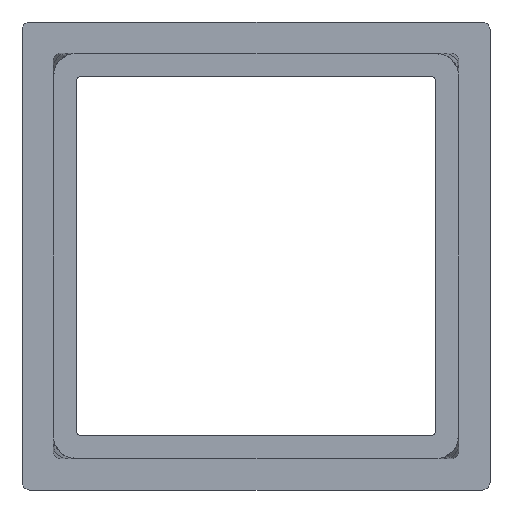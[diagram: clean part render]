
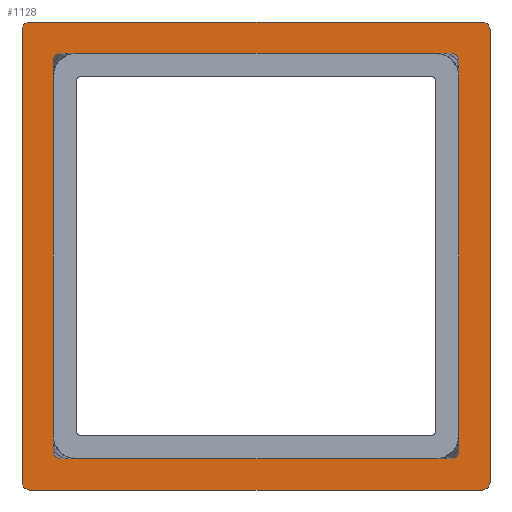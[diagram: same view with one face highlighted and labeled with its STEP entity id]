
A CAD part, left-side view. The second image highlights one B-rep face of the part: STEP entity #1128.
In plain terms, the highlighted planar face has unit normal (-1, 0, 0).
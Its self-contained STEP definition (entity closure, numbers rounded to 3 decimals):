
#3 = EDGE_CURVE ( 'NONE', #752, #306, #1134, .T. ) ;
#9 = LINE ( 'NONE', #1425, #1402 ) ;
#32 = CARTESIAN_POINT ( 'NONE',  ( 25., 13., -12.5 ) ) ;
#38 = AXIS2_PLACEMENT_3D ( 'NONE', #284, #43, #1282 ) ;
#43 = DIRECTION ( 'NONE',  ( -1., 0., 0. ) ) ;
#59 = DIRECTION ( 'NONE',  ( 0., -1., 0. ) ) ;
#66 = CARTESIAN_POINT ( 'NONE',  ( 25., 15., 14.5 ) ) ;
#72 = ORIENTED_EDGE ( 'NONE', *, *, #579, .T. ) ;
#84 = EDGE_LOOP ( 'NONE', ( #582, #710, #72, #1307, #916, #1151, #386, #313 ) ) ;
#96 = LINE ( 'NONE', #523, #279 ) ;
#113 = DIRECTION ( 'NONE',  ( 0., 0., -1. ) ) ;
#118 = CARTESIAN_POINT ( 'NONE',  ( 25., -13., -13. ) ) ;
#119 = VERTEX_POINT ( 'NONE', #1223 ) ;
#121 = DIRECTION ( 'NONE',  ( -1., 0., 0. ) ) ;
#129 = CARTESIAN_POINT ( 'NONE',  ( 25., 14.5, -14.5 ) ) ;
#142 = EDGE_CURVE ( 'NONE', #1044, #119, #563, .T. ) ;
#146 = CARTESIAN_POINT ( 'NONE',  ( 25., -13., 13. ) ) ;
#176 = CARTESIAN_POINT ( 'NONE',  ( 25., 14.5, 15. ) ) ;
#181 = LINE ( 'NONE', #1051, #1403 ) ;
#190 = CARTESIAN_POINT ( 'NONE',  ( 25., -15., 14.5 ) ) ;
#202 = CARTESIAN_POINT ( 'NONE',  ( 25., 14.5, 14.5 ) ) ;
#212 = EDGE_CURVE ( 'NONE', #400, #423, #96, .T. ) ;
#213 = ORIENTED_EDGE ( 'NONE', *, *, #3, .T. ) ;
#246 = DIRECTION ( 'NONE',  ( -1., 0., 0. ) ) ;
#248 =( BOUNDED_CURVE ( )  B_SPLINE_CURVE ( 2, ( #1140, #451, #32 ),
 .UNSPECIFIED., .F., .T. ) 
 B_SPLINE_CURVE_WITH_KNOTS ( ( 3, 3 ),
 ( 0., 0.001 ),
 .UNSPECIFIED. ) 
 CURVE ( )  GEOMETRIC_REPRESENTATION_ITEM ( )  RATIONAL_B_SPLINE_CURVE ( ( 1., 0.707, 1. ) ) 
 REPRESENTATION_ITEM ( '' )  );
#255 = EDGE_CURVE ( 'NONE', #644, #647, #9, .T. ) ;
#265 = FACE_BOUND ( 'NONE', #84, .T. ) ;
#277 = FACE_OUTER_BOUND ( 'NONE', #891, .T. ) ;
#279 = VECTOR ( 'NONE', #1186, 1000. ) ;
#284 = CARTESIAN_POINT ( 'NONE',  ( 25., -14.5, 14.5 ) ) ;
#294 = ORIENTED_EDGE ( 'NONE', *, *, #723, .F. ) ;
#306 = VERTEX_POINT ( 'NONE', #66 ) ;
#309 = CARTESIAN_POINT ( 'NONE',  ( 25., -13., 12.5 ) ) ;
#313 = ORIENTED_EDGE ( 'NONE', *, *, #1030, .T. ) ;
#314 = DIRECTION ( 'NONE',  ( 0., 1., 0. ) ) ;
#319 = EDGE_CURVE ( 'NONE', #597, #306, #748, .T. ) ;
#347 = DIRECTION ( 'NONE',  ( 0., 1., 0. ) ) ;
#354 = CARTESIAN_POINT ( 'NONE',  ( 25., -14.5, -14.5 ) ) ;
#357 = CARTESIAN_POINT ( 'NONE',  ( 25., -12.5, 13. ) ) ;
#363 = EDGE_CURVE ( 'NONE', #757, #743, #826, .T. ) ;
#366 = VECTOR ( 'NONE', #314, 1000. ) ;
#386 = ORIENTED_EDGE ( 'NONE', *, *, #1334, .T. ) ;
#390 = CARTESIAN_POINT ( 'NONE',  ( 25., 0., 0. ) ) ;
#397 = CARTESIAN_POINT ( 'NONE',  ( 25., 12.5, -13. ) ) ;
#400 = VERTEX_POINT ( 'NONE', #190 ) ;
#401 = CARTESIAN_POINT ( 'NONE',  ( 25., -13., -13. ) ) ;
#423 = VERTEX_POINT ( 'NONE', #659 ) ;
#448 = VECTOR ( 'NONE', #626, 1000. ) ;
#449 = LINE ( 'NONE', #556, #366 ) ;
#451 = CARTESIAN_POINT ( 'NONE',  ( 25., 13., -13. ) ) ;
#452 = CARTESIAN_POINT ( 'NONE',  ( 25., -12.5, -13. ) ) ;
#457 = CARTESIAN_POINT ( 'NONE',  ( 25., -13., 12.5 ) ) ;
#458 = AXIS2_PLACEMENT_3D ( 'NONE', #390, #620, #838 ) ;
#465 =( BOUNDED_CURVE ( )  B_SPLINE_CURVE ( 2, ( #1110, #118, #452 ),
 .UNSPECIFIED., .F., .T. ) 
 B_SPLINE_CURVE_WITH_KNOTS ( ( 3, 3 ),
 ( 0., 0.001 ),
 .UNSPECIFIED. ) 
 CURVE ( )  GEOMETRIC_REPRESENTATION_ITEM ( )  RATIONAL_B_SPLINE_CURVE ( ( 1., 0.707, 1. ) ) 
 REPRESENTATION_ITEM ( '' )  );
#498 = DIRECTION ( 'NONE',  ( 0., 0., 1. ) ) ;
#499 = AXIS2_PLACEMENT_3D ( 'NONE', #202, #961, #113 ) ;
#507 = ORIENTED_EDGE ( 'NONE', *, *, #1371, .T. ) ;
#523 = CARTESIAN_POINT ( 'NONE',  ( 25., -15., -15. ) ) ;
#524 = CARTESIAN_POINT ( 'NONE',  ( 25., -12.5, 13. ) ) ;
#556 = CARTESIAN_POINT ( 'NONE',  ( 25., 13., -13. ) ) ;
#563 = LINE ( 'NONE', #1125, #1270 ) ;
#572 = DIRECTION ( 'NONE',  ( 0., 0., -1. ) ) ;
#577 = EDGE_CURVE ( 'NONE', #743, #1215, #465, .T. ) ;
#579 = EDGE_CURVE ( 'NONE', #941, #789, #1311, .T. ) ;
#582 = ORIENTED_EDGE ( 'NONE', *, *, #255, .T. ) ;
#597 = VERTEX_POINT ( 'NONE', #968 ) ;
#607 = ORIENTED_EDGE ( 'NONE', *, *, #1382, .T. ) ;
#620 = DIRECTION ( 'NONE',  ( 1., 0., 0. ) ) ;
#626 = DIRECTION ( 'NONE',  ( 0., -1., 0. ) ) ;
#631 = DIRECTION ( 'NONE',  ( 0., 0., -1. ) ) ;
#644 = VERTEX_POINT ( 'NONE', #844 ) ;
#647 = VERTEX_POINT ( 'NONE', #652 ) ;
#652 = CARTESIAN_POINT ( 'NONE',  ( 25., 13., 12.5 ) ) ;
#659 = CARTESIAN_POINT ( 'NONE',  ( 25., -15., -14.5 ) ) ;
#669 = CIRCLE ( 'NONE', #1386, 0.5 ) ;
#679 = DIRECTION ( 'NONE',  ( 0., 0., -1. ) ) ;
#680 = DIRECTION ( 'NONE',  ( 0., 0., 1. ) ) ;
#690 = ORIENTED_EDGE ( 'NONE', *, *, #1149, .T. ) ;
#696 =( BOUNDED_CURVE ( )  B_SPLINE_CURVE ( 2, ( #764, #1074, #1325 ),
 .UNSPECIFIED., .F., .F. ) 
 B_SPLINE_CURVE_WITH_KNOTS ( ( 3, 3 ),
 ( 0., 0.001 ),
 .UNSPECIFIED. ) 
 CURVE ( )  GEOMETRIC_REPRESENTATION_ITEM ( )  RATIONAL_B_SPLINE_CURVE ( ( 1., 0.707, 1. ) ) 
 REPRESENTATION_ITEM ( '' )  );
#710 = ORIENTED_EDGE ( 'NONE', *, *, #815, .T. ) ;
#723 = EDGE_CURVE ( 'NONE', #752, #1363, #181, .T. ) ;
#731 = AXIS2_PLACEMENT_3D ( 'NONE', #354, #121, #679 ) ;
#743 = VERTEX_POINT ( 'NONE', #858 ) ;
#748 = LINE ( 'NONE', #1075, #1020 ) ;
#752 = VERTEX_POINT ( 'NONE', #176 ) ;
#757 = VERTEX_POINT ( 'NONE', #309 ) ;
#764 = CARTESIAN_POINT ( 'NONE',  ( 25., 13., 12.5 ) ) ;
#789 = VERTEX_POINT ( 'NONE', #524 ) ;
#813 = CARTESIAN_POINT ( 'NONE',  ( 25., -14.5, 15. ) ) ;
#815 = EDGE_CURVE ( 'NONE', #647, #941, #696, .T. ) ;
#826 = LINE ( 'NONE', #401, #973 ) ;
#838 = DIRECTION ( 'NONE',  ( 0., 0., -1. ) ) ;
#844 = CARTESIAN_POINT ( 'NONE',  ( 25., 13., -12.5 ) ) ;
#850 = CIRCLE ( 'NONE', #38, 0.5 ) ;
#858 = CARTESIAN_POINT ( 'NONE',  ( 25., -13., -12.5 ) ) ;
#891 = EDGE_LOOP ( 'NONE', ( #990, #607, #939, #507, #910, #690, #294, #213 ) ) ;
#902 = CARTESIAN_POINT ( 'NONE',  ( 25., 13., 13. ) ) ;
#910 = ORIENTED_EDGE ( 'NONE', *, *, #212, .F. ) ;
#916 = ORIENTED_EDGE ( 'NONE', *, *, #363, .T. ) ;
#927 = CARTESIAN_POINT ( 'NONE',  ( 25., -12.5, -13. ) ) ;
#939 = ORIENTED_EDGE ( 'NONE', *, *, #142, .F. ) ;
#941 = VERTEX_POINT ( 'NONE', #1002 ) ;
#961 = DIRECTION ( 'NONE',  ( -1., 0., 0. ) ) ;
#968 = CARTESIAN_POINT ( 'NONE',  ( 25., 15., -14.5 ) ) ;
#973 = VECTOR ( 'NONE', #631, 1000. ) ;
#982 = EDGE_CURVE ( 'NONE', #789, #757, #1085, .T. ) ;
#990 = ORIENTED_EDGE ( 'NONE', *, *, #319, .F. ) ;
#1002 = CARTESIAN_POINT ( 'NONE',  ( 25., 12.5, 13. ) ) ;
#1020 = VECTOR ( 'NONE', #498, 1000. ) ;
#1030 = EDGE_CURVE ( 'NONE', #1164, #644, #248, .T. ) ;
#1044 = VERTEX_POINT ( 'NONE', #1333 ) ;
#1051 = CARTESIAN_POINT ( 'NONE',  ( 25., 15., 15. ) ) ;
#1074 = CARTESIAN_POINT ( 'NONE',  ( 25., 13., 13. ) ) ;
#1075 = CARTESIAN_POINT ( 'NONE',  ( 25., 15., -15. ) ) ;
#1085 =( BOUNDED_CURVE ( )  B_SPLINE_CURVE ( 2, ( #357, #146, #457 ),
 .UNSPECIFIED., .F., .F. ) 
 B_SPLINE_CURVE_WITH_KNOTS ( ( 3, 3 ),
 ( 0., 0.001 ),
 .UNSPECIFIED. ) 
 CURVE ( )  GEOMETRIC_REPRESENTATION_ITEM ( )  RATIONAL_B_SPLINE_CURVE ( ( 1., 0.707, 1. ) ) 
 REPRESENTATION_ITEM ( '' )  );
#1110 = CARTESIAN_POINT ( 'NONE',  ( 25., -13., -12.5 ) ) ;
#1125 = CARTESIAN_POINT ( 'NONE',  ( 25., 15., -15. ) ) ;
#1128 = ADVANCED_FACE ( 'NONE', ( #277, #265 ), #1370, .F. ) ;
#1134 = CIRCLE ( 'NONE', #499, 0.5 ) ;
#1140 = CARTESIAN_POINT ( 'NONE',  ( 25., 12.5, -13. ) ) ;
#1149 = EDGE_CURVE ( 'NONE', #400, #1363, #850, .T. ) ;
#1151 = ORIENTED_EDGE ( 'NONE', *, *, #577, .T. ) ;
#1164 = VERTEX_POINT ( 'NONE', #397 ) ;
#1165 = CIRCLE ( 'NONE', #731, 0.5 ) ;
#1186 = DIRECTION ( 'NONE',  ( 0., 0., -1. ) ) ;
#1215 = VERTEX_POINT ( 'NONE', #927 ) ;
#1223 = CARTESIAN_POINT ( 'NONE',  ( 25., 14.5, -15. ) ) ;
#1270 = VECTOR ( 'NONE', #347, 1000. ) ;
#1282 = DIRECTION ( 'NONE',  ( 0., 0., -1. ) ) ;
#1307 = ORIENTED_EDGE ( 'NONE', *, *, #982, .T. ) ;
#1311 = LINE ( 'NONE', #902, #448 ) ;
#1325 = CARTESIAN_POINT ( 'NONE',  ( 25., 12.5, 13. ) ) ;
#1333 = CARTESIAN_POINT ( 'NONE',  ( 25., -14.5, -15. ) ) ;
#1334 = EDGE_CURVE ( 'NONE', #1215, #1164, #449, .T. ) ;
#1363 = VERTEX_POINT ( 'NONE', #813 ) ;
#1370 = PLANE ( 'NONE',  #458 ) ;
#1371 = EDGE_CURVE ( 'NONE', #1044, #423, #1165, .T. ) ;
#1382 = EDGE_CURVE ( 'NONE', #597, #119, #669, .T. ) ;
#1386 = AXIS2_PLACEMENT_3D ( 'NONE', #129, #246, #572 ) ;
#1402 = VECTOR ( 'NONE', #680, 1000. ) ;
#1403 = VECTOR ( 'NONE', #59, 1000. ) ;
#1425 = CARTESIAN_POINT ( 'NONE',  ( 25., 13., -13. ) ) ;
